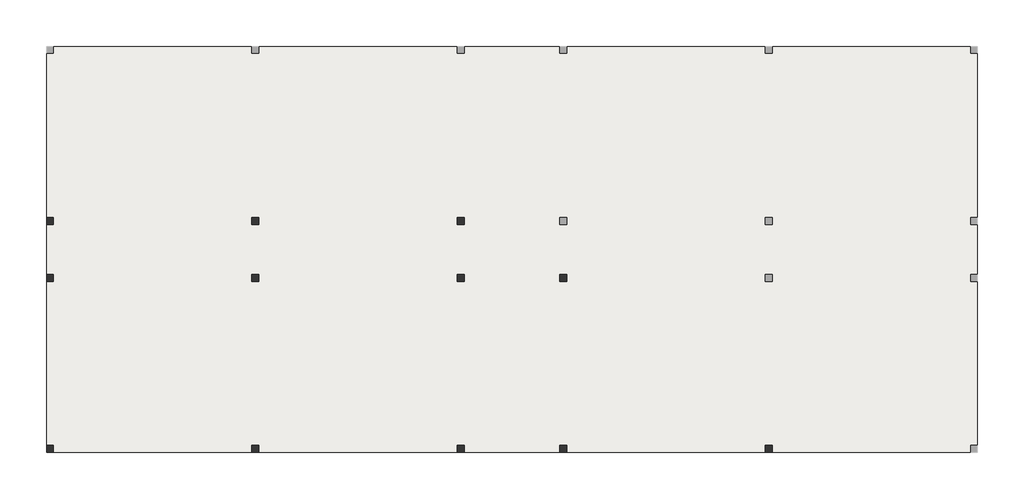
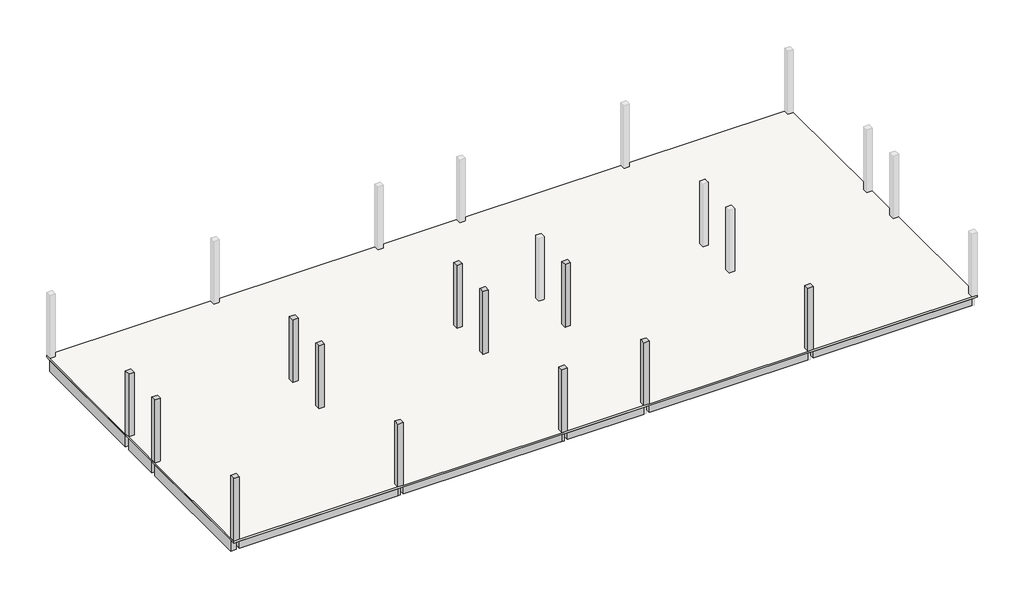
# One storey, part 1 of 2: 12 columns, 8 beams, 1 slab.
"""IFC4 building model written with IfcOpenShell, lengths in millimetres."""

from ifc_helpers import new_model, si_unit, frame, origin, place, context, project, spatial, polyline, outline, extrude, faceted_brep, element, save

model = new_model("IFC4")

# Units and contexts
model_context = context("Model", 3, world=origin())
ifc_project = project(units=[si_unit("LENGTHUNIT", "METRE", prefix="MILLI")], contexts=[model_context])

# Site, building, storey
site = spatial("IfcSite", under=ifc_project)
building = spatial("IfcBuilding", under=site)
storey = spatial("IfcBuildingStorey", under=building, Name="标高 2", Elevation=3000.0)

# Beams
placement = place(None, origin())
element("IfcBeam", 1, ObjectType="混凝土 - 矩形梁 : KL1", at=placement, inside=storey, context=model_context, shape_type="Brep", body=[
    faceted_brep([(-16435.2046881, -2804.7297059, 2400.0), (-16435.2046881, -8564.7297059, 2400.0), (-16435.2046881, -8564.7297059, 2920.0), (-16435.2046881, -2804.7297059, 2920.0), (-16195.2046881, -8564.7297059, 2400.0), (-16195.2046881, -2804.7297059, 2400.0), (-16195.2046881, -2804.7297059, 2920.0), (-16195.2046881, -4584.7297059, 2920.0), (-16195.2046881, -4784.7297059, 2920.0), (-16195.2046881, -6584.7297059, 2920.0), (-16195.2046881, -6784.7297059, 2920.0), (-16195.2046881, -8564.7297059, 2920.0)], [[[0, 1, 2, 3]], [[4, 1, 0, 5]], [[4, 5, 6, 7, 8, 9, 10, 11]], [[1, 4, 11, 2]], [[5, 0, 3, 6]], [[3, 2, 11, 10, 9, 8, 7, 6]]]),
    faceted_brep([(-16195.2046881, 5195.2702941, 2400.0), (-16435.2046881, 5195.2702941, 2400.0), (-16435.2046881, 5195.2702941, 2920.0), (-16195.2046881, 5195.2702941, 2920.0), (-16435.2046881, -564.7297059, 2400.0), (-16195.2046881, -564.7297059, 2400.0), (-16195.2046881, -564.7297059, 2920.0), (-16435.2046881, -564.7297059, 2920.0), (-16195.2046881, 3415.2702941, 2920.0), (-16195.2046881, 3215.2702941, 2920.0), (-16195.2046881, 1415.2702941, 2920.0), (-16195.2046881, 1215.2702941, 2920.0)], [[[0, 1, 2, 3]], [[4, 5, 6, 7]], [[1, 4, 7, 2]], [[1, 0, 5, 4]], [[5, 0, 3, 8, 9, 10, 11, 6]], [[3, 2, 7, 6, 11, 10, 9, 8]]]),
    faceted_brep([(-16435.2046881, -2564.7297059, 2400.0), (-16195.2046881, -2564.7297059, 2400.0), (-16195.2046881, -2564.7297059, 2920.0), (-16435.2046881, -2564.7297059, 2920.0), (-16435.2046881, -804.7297059, 2400.0), (-16435.2046881, -804.7297059, 2920.0), (-16195.2046881, -804.7297059, 2400.0), (-16195.2046881, -804.7297059, 2920.0)], [[[0, 1, 2, 3]], [[4, 0, 3, 5]], [[1, 0, 4, 6]], [[1, 6, 7, 2]], [[6, 4, 5, 7]], [[3, 2, 7, 5]]]),
])
element("IfcBeam", 2, ObjectType="混凝土 - 矩形梁 : KL1", at=placement, inside=storey, context=model_context, shape_type="SweptSolid", body=[
    extrude(outline(polyline([(-2804.7297059, 2400.0), (-8564.7297059, 2400.0), (-8564.7297059, 2920.0), (-6784.7297059, 2920.0), (-6784.7297059, 2600.0), (-6584.7297059, 2600.0), (-6584.7297059, 2920.0), (-4784.7297059, 2920.0), (-4784.7297059, 2600.0), (-4584.7297059, 2600.0), (-4584.7297059, 2920.0), (-2804.7297059, 2920.0), (-2804.7297059, 2400.0)])), frame((-9235.2046881, 0.0, 0.0), z_axis=(1.0, 0.0, 0.0), x_axis=(0.0, 1.0, 0.0)), (0.0, 0.0, 1.0), 240.0),
    extrude(outline(polyline([(5195.2702941, 2400.0), (-564.7297059, 2400.0), (-564.7297059, 2920.0), (1215.2702941, 2920.0), (1215.2702941, 2600.0), (1415.2702941, 2600.0), (1415.2702941, 2920.0), (3215.2702941, 2920.0), (3215.2702941, 2600.0), (3415.2702941, 2600.0), (3415.2702941, 2920.0), (5195.2702941, 2920.0), (5195.2702941, 2400.0)])), frame((-9235.2046881, 0.0, 0.0), z_axis=(1.0, 0.0, 0.0), x_axis=(0.0, 1.0, 0.0)), (0.0, 0.0, 1.0), 240.0),
    extrude(outline(polyline([(-8995.2046881, -2564.7297059), (-9235.2046881, -2564.7297059), (-9235.2046881, -804.7297059), (-8995.2046881, -804.7297059), (-8995.2046881, -2564.7297059)])), frame((0.0, 0.0, 2400.0), z_axis=(0.0, 0.0, 1.0), x_axis=(1.0, 0.0, 0.0)), (0.0, 0.0, 1.0), 520.0),
])
element("IfcBeam", 3, ObjectType="混凝土 - 矩形梁 : KL1", at=placement, inside=storey, context=model_context, shape_type="Brep", body=[
    faceted_brep([(-2035.2046881, -2804.7297059, 2400.0), (-2035.2046881, -8564.7297059, 2400.0), (-2035.2046881, -8564.7297059, 2920.0), (-2035.2046881, -6784.7297059, 2920.0), (-2035.2046881, -6584.7297059, 2920.0), (-2035.2046881, -4784.7297059, 2920.0), (-2035.2046881, -4584.7297059, 2920.0), (-2035.2046881, -2804.7297059, 2920.0), (-1795.2046881, -8564.7297059, 2400.0), (-1795.2046881, -2804.7297059, 2400.0), (-1795.2046881, -2804.7297059, 2920.0), (-1795.2046881, -8564.7297059, 2920.0)], [[[0, 1, 2, 3, 4, 5, 6, 7]], [[8, 1, 0, 9]], [[8, 9, 10, 11]], [[1, 8, 11, 2]], [[9, 0, 7, 10]], [[7, 6, 5, 4, 3, 2, 11, 10]]]),
    faceted_brep([(-1795.2046881, 5195.2702941, 2400.0), (-2035.2046881, 5195.2702941, 2400.0), (-2035.2046881, 5195.2702941, 2920.0), (-1795.2046881, 5195.2702941, 2920.0), (-2035.2046881, -564.7297059, 2400.0), (-1795.2046881, -564.7297059, 2400.0), (-1795.2046881, -564.7297059, 2920.0), (-2035.2046881, -564.7297059, 2920.0), (-2035.2046881, 1215.2702941, 2920.0), (-2035.2046881, 1415.2702941, 2920.0), (-2035.2046881, 3215.2702941, 2920.0), (-2035.2046881, 3415.2702941, 2920.0)], [[[0, 1, 2, 3]], [[4, 5, 6, 7]], [[1, 4, 7, 8, 9, 10, 11, 2]], [[1, 0, 5, 4]], [[5, 0, 3, 6]], [[3, 2, 11, 10, 9, 8, 7, 6]]]),
    faceted_brep([(-2035.2046881, -2564.7297059, 2400.0), (-1795.2046881, -2564.7297059, 2400.0), (-1795.2046881, -2564.7297059, 2920.0), (-2035.2046881, -2564.7297059, 2920.0), (-2035.2046881, -804.7297059, 2400.0), (-2035.2046881, -804.7297059, 2920.0), (-1795.2046881, -804.7297059, 2400.0), (-1795.2046881, -804.7297059, 2920.0)], [[[0, 1, 2, 3]], [[4, 0, 3, 5]], [[1, 0, 4, 6]], [[1, 6, 7, 2]], [[6, 4, 5, 7]], [[3, 2, 7, 5]]]),
])
element("IfcBeam", 4, ObjectType="混凝土 - 矩形梁 : KL2", at=placement, inside=storey, context=model_context, shape_type="SweptSolid", body=[
    extrude(outline(polyline([(-16195.2046881, -8804.7297059), (-16195.2046881, -8604.7297059), (-9235.2046881, -8604.7297059), (-9235.2046881, -8804.7297059), (-16195.2046881, -8804.7297059)])), frame((0.0, 0.0, 2600.0), z_axis=(0.0, 0.0, 1.0), x_axis=(1.0, 0.0, 0.0)), (0.0, 0.0, 1.0), 320.0),
    extrude(outline(polyline([(15964.7953119, -8604.7297059), (15964.7953119, -8804.7297059), (9004.7953119, -8804.7297059), (9004.7953119, -8604.7297059), (15964.7953119, -8604.7297059)])), frame((0.0, 0.0, 2600.0), z_axis=(0.0, 0.0, 1.0), x_axis=(1.0, 0.0, 0.0)), (0.0, 0.0, 1.0), 320.0),
    extrude(outline(polyline([(-8995.2046881, -8804.7297059), (-8995.2046881, -8604.7297059), (-2035.2046881, -8604.7297059), (-2035.2046881, -8804.7297059), (-8995.2046881, -8804.7297059)])), frame((0.0, 0.0, 2600.0), z_axis=(0.0, 0.0, 1.0), x_axis=(1.0, 0.0, 0.0)), (0.0, 0.0, 1.0), 320.0),
    extrude(outline(polyline([(-1795.2046881, -8804.7297059), (-1795.2046881, -8604.7297059), (1564.7953119, -8604.7297059), (1564.7953119, -8804.7297059), (-1795.2046881, -8804.7297059)])), frame((0.0, 0.0, 2600.0), z_axis=(0.0, 0.0, 1.0), x_axis=(1.0, 0.0, 0.0)), (0.0, 0.0, 1.0), 320.0),
    extrude(outline(polyline([(1804.7953119, -8804.7297059), (1804.7953119, -8604.7297059), (8764.7953119, -8604.7297059), (8764.7953119, -8804.7297059), (1804.7953119, -8804.7297059)])), frame((0.0, 0.0, 2600.0), z_axis=(0.0, 0.0, 1.0), x_axis=(1.0, 0.0, 0.0)), (0.0, 0.0, 1.0), 320.0),
])
element("IfcBeam", 5, ObjectType="混凝土 - 矩形梁 : KL2", at=placement, inside=storey, context=model_context, shape_type="SweptSolid", body=[
    extrude(outline(polyline([(-2035.2046881, -584.7297059), (-2035.2046881, -784.7297059), (-8995.2046881, -784.7297059), (-8995.2046881, -584.7297059), (-2035.2046881, -584.7297059)])), frame((0.0, 0.0, 2600.0), z_axis=(0.0, 0.0, 1.0), x_axis=(1.0, 0.0, 0.0)), (0.0, 0.0, 1.0), 320.0),
    extrude(outline(polyline([(-16195.2046881, -784.7297059), (-16195.2046881, -584.7297059), (-9235.2046881, -584.7297059), (-9235.2046881, -784.7297059), (-16195.2046881, -784.7297059)])), frame((0.0, 0.0, 2600.0), z_axis=(0.0, 0.0, 1.0), x_axis=(1.0, 0.0, 0.0)), (0.0, 0.0, 1.0), 320.0),
])
element("IfcBeam", 6, ObjectType="混凝土 - 矩形梁 : KL2", at=placement, inside=storey, context=model_context, shape_type="SweptSolid", body=[
    extrude(outline(polyline([(-2035.2046881, -2584.7297059), (-2035.2046881, -2784.7297059), (-8995.2046881, -2784.7297059), (-8995.2046881, -2584.7297059), (-2035.2046881, -2584.7297059)])), frame((0.0, 0.0, 2600.0), z_axis=(0.0, 0.0, 1.0), x_axis=(1.0, 0.0, 0.0)), (0.0, 0.0, 1.0), 320.0),
    extrude(outline(polyline([(-16195.2046881, -2784.7297059), (-16195.2046881, -2584.7297059), (-9235.2046881, -2584.7297059), (-9235.2046881, -2784.7297059), (-16195.2046881, -2784.7297059)])), frame((0.0, 0.0, 2600.0), z_axis=(0.0, 0.0, 1.0), x_axis=(1.0, 0.0, 0.0)), (0.0, 0.0, 1.0), 320.0),
])
element("IfcBeam", 7, ObjectType="混凝土 - 矩形梁 : KL2", at=placement, inside=storey, context=model_context, shape_type="Brep", body=[
    faceted_brep([(-16195.2046881, -4784.7297059, 2600.0), (-9235.2046881, -4784.7297059, 2600.0), (-8995.2046881, -4784.7297059, 2600.0), (-2035.2046881, -4784.7297059, 2600.0), (-2035.2046881, -4784.7297059, 2920.0), (-8995.2046881, -4784.7297059, 2920.0), (-9235.2046881, -4784.7297059, 2920.0), (-16195.2046881, -4784.7297059, 2920.0), (-16195.2046881, -4584.7297059, 2600.0), (-9235.2046881, -4584.7297059, 2600.0), (-8995.2046881, -4584.7297059, 2600.0), (-2035.2046881, -4584.7297059, 2600.0), (-16195.2046881, -4584.7297059, 2920.0), (-9235.2046881, -4584.7297059, 2920.0), (-8995.2046881, -4584.7297059, 2920.0), (-2035.2046881, -4584.7297059, 2920.0)], [[[0, 1, 2, 3, 4, 5, 6, 7]], [[0, 8, 9, 10, 11, 3, 2, 1]], [[11, 10, 9, 8, 12, 13, 14, 15]], [[8, 0, 7, 12]], [[3, 11, 15, 4]], [[7, 6, 5, 4, 15, 14, 13, 12]]]),
])
element("IfcBeam", 8, ObjectType="混凝土 - 矩形梁 : KL2", at=placement, inside=storey, context=model_context, shape_type="Brep", body=[
    faceted_brep([(-16195.2046881, -6784.7297059, 2600.0), (-9235.2046881, -6784.7297059, 2600.0), (-8995.2046881, -6784.7297059, 2600.0), (-2035.2046881, -6784.7297059, 2600.0), (-2035.2046881, -6784.7297059, 2920.0), (-8995.2046881, -6784.7297059, 2920.0), (-9235.2046881, -6784.7297059, 2920.0), (-16195.2046881, -6784.7297059, 2920.0), (-16195.2046881, -6584.7297059, 2600.0), (-9235.2046881, -6584.7297059, 2600.0), (-8995.2046881, -6584.7297059, 2600.0), (-2035.2046881, -6584.7297059, 2600.0), (-16195.2046881, -6584.7297059, 2920.0), (-9235.2046881, -6584.7297059, 2920.0), (-8995.2046881, -6584.7297059, 2920.0), (-2035.2046881, -6584.7297059, 2920.0)], [[[0, 1, 2, 3, 4, 5, 6, 7]], [[0, 8, 9, 10, 11, 3, 2, 1]], [[11, 10, 9, 8, 12, 13, 14, 15]], [[8, 0, 7, 12]], [[3, 11, 15, 4]], [[7, 6, 5, 4, 15, 14, 13, 12]]]),
])

# Columns
element("IfcColumn", 9, ObjectType="混凝土 - 矩形 - 柱 : KZ", at=placement, inside=storey, context=model_context, shape_type="Brep", body=[
    faceted_brep([(-16195.2046881, -8564.7297059, 3000.0), (-16195.2046881, -8804.7297059, 3000.0), (-16435.2046881, -8804.7297059, 3000.0), (-16435.2046881, -8564.7297059, 3000.0), (-16195.2046881, -8564.7297059, 5400.0), (-16195.2046881, -8564.7297059, 5920.0), (-16195.2046881, -8604.7297059, 5920.0), (-16195.2046881, -8804.7297059, 5920.0), (-16195.2046881, -8804.7297059, 5600.0), (-16435.2046881, -8804.7297059, 5920.0), (-16435.2046881, -8564.7297059, 5920.0), (-16435.2046881, -8564.7297059, 5400.0)], [[[0, 1, 2, 3]], [[1, 0, 4, 5, 6, 7, 8]], [[2, 1, 8, 7, 9]], [[3, 2, 9, 10, 11]], [[0, 3, 11, 10, 5, 4]], [[7, 6, 5, 10, 9]]]),
])
element("IfcColumn", 10, ObjectType="混凝土 - 矩形 - 柱 : KZ", at=placement, inside=storey, context=model_context, shape_type="Brep", body=[
    faceted_brep([(-16195.2046881, -2564.7297059, 3000.0), (-16195.2046881, -2804.7297059, 3000.0), (-16435.2046881, -2804.7297059, 3000.0), (-16435.2046881, -2564.7297059, 3000.0), (-16195.2046881, -2564.7297059, 5400.0), (-16195.2046881, -2564.7297059, 5920.0), (-16195.2046881, -2584.7297059, 5920.0), (-16195.2046881, -2784.7297059, 5920.0), (-16195.2046881, -2804.7297059, 5920.0), (-16195.2046881, -2804.7297059, 5400.0), (-16435.2046881, -2804.7297059, 5920.0), (-16435.2046881, -2804.7297059, 5400.0), (-16435.2046881, -2564.7297059, 5920.0), (-16435.2046881, -2564.7297059, 5400.0)], [[[0, 1, 2, 3]], [[1, 0, 4, 5, 6, 7, 8, 9]], [[2, 1, 9, 8, 10, 11]], [[3, 2, 11, 10, 12, 13]], [[0, 3, 13, 12, 5, 4]], [[8, 7, 6, 5, 12, 10]]]),
])
element("IfcColumn", 11, ObjectType="混凝土 - 矩形 - 柱 : KZ", at=placement, inside=storey, context=model_context, shape_type="Brep", body=[
    faceted_brep([(-16195.2046881, -564.7297059, 3000.0), (-16195.2046881, -804.7297059, 3000.0), (-16435.2046881, -804.7297059, 3000.0), (-16435.2046881, -564.7297059, 3000.0), (-16195.2046881, -564.7297059, 5400.0), (-16195.2046881, -564.7297059, 5920.0), (-16195.2046881, -584.7297059, 5920.0), (-16195.2046881, -784.7297059, 5920.0), (-16195.2046881, -804.7297059, 5920.0), (-16195.2046881, -804.7297059, 5400.0), (-16435.2046881, -804.7297059, 5920.0), (-16435.2046881, -804.7297059, 5400.0), (-16435.2046881, -564.7297059, 5920.0), (-16435.2046881, -564.7297059, 5400.0)], [[[0, 1, 2, 3]], [[1, 0, 4, 5, 6, 7, 8, 9]], [[2, 1, 9, 8, 10, 11]], [[3, 2, 11, 10, 12, 13]], [[0, 3, 13, 12, 5, 4]], [[8, 7, 6, 5, 12, 10]]]),
])
element("IfcColumn", 12, ObjectType="混凝土 - 矩形 - 柱 : KZ", at=placement, inside=storey, context=model_context, shape_type="Brep", body=[
    faceted_brep([(-8995.2046881, -8564.7297059, 3000.0), (-8995.2046881, -8804.7297059, 3000.0), (-9235.2046881, -8804.7297059, 3000.0), (-9235.2046881, -8564.7297059, 3000.0), (-8995.2046881, -8564.7297059, 5400.0), (-8995.2046881, -8564.7297059, 5920.0), (-8995.2046881, -8604.7297059, 5920.0), (-8995.2046881, -8804.7297059, 5920.0), (-8995.2046881, -8804.7297059, 5600.0), (-9235.2046881, -8804.7297059, 5920.0), (-9235.2046881, -8804.7297059, 5600.0), (-9235.2046881, -8604.7297059, 5920.0), (-9235.2046881, -8564.7297059, 5920.0), (-9235.2046881, -8564.7297059, 5400.0)], [[[0, 1, 2, 3]], [[1, 0, 4, 5, 6, 7, 8]], [[2, 1, 8, 7, 9, 10]], [[3, 2, 10, 9, 11, 12, 13]], [[0, 3, 13, 12, 5, 4]], [[7, 6, 5, 12, 11, 9]]]),
])
element("IfcColumn", 13, ObjectType="混凝土 - 矩形 - 柱 : KZ", at=placement, inside=storey, context=model_context, shape_type="Brep", body=[
    faceted_brep([(-8995.2046881, -2564.7297059, 3000.0), (-8995.2046881, -2804.7297059, 3000.0), (-9235.2046881, -2804.7297059, 3000.0), (-9235.2046881, -2564.7297059, 3000.0), (-8995.2046881, -2564.7297059, 5400.0), (-8995.2046881, -2564.7297059, 5920.0), (-8995.2046881, -2584.7297059, 5920.0), (-8995.2046881, -2784.7297059, 5920.0), (-8995.2046881, -2804.7297059, 5920.0), (-8995.2046881, -2804.7297059, 5400.0), (-9235.2046881, -2804.7297059, 5920.0), (-9235.2046881, -2804.7297059, 5400.0), (-9235.2046881, -2784.7297059, 5920.0), (-9235.2046881, -2584.7297059, 5920.0), (-9235.2046881, -2564.7297059, 5920.0), (-9235.2046881, -2564.7297059, 5400.0)], [[[0, 1, 2, 3]], [[1, 0, 4, 5, 6, 7, 8, 9]], [[2, 1, 9, 8, 10, 11]], [[3, 2, 11, 10, 12, 13, 14, 15]], [[0, 3, 15, 14, 5, 4]], [[8, 7, 6, 5, 14, 13, 12, 10]]]),
])
element("IfcColumn", 14, ObjectType="混凝土 - 矩形 - 柱 : KZ", at=placement, inside=storey, context=model_context, shape_type="Brep", body=[
    faceted_brep([(-8995.2046881, -564.7297059, 3000.0), (-8995.2046881, -804.7297059, 3000.0), (-9235.2046881, -804.7297059, 3000.0), (-9235.2046881, -564.7297059, 3000.0), (-8995.2046881, -564.7297059, 5400.0), (-8995.2046881, -564.7297059, 5920.0), (-8995.2046881, -584.7297059, 5920.0), (-8995.2046881, -784.7297059, 5920.0), (-8995.2046881, -804.7297059, 5920.0), (-8995.2046881, -804.7297059, 5400.0), (-9235.2046881, -804.7297059, 5920.0), (-9235.2046881, -804.7297059, 5400.0), (-9235.2046881, -784.7297059, 5920.0), (-9235.2046881, -584.7297059, 5920.0), (-9235.2046881, -564.7297059, 5920.0), (-9235.2046881, -564.7297059, 5400.0)], [[[0, 1, 2, 3]], [[1, 0, 4, 5, 6, 7, 8, 9]], [[2, 1, 9, 8, 10, 11]], [[3, 2, 11, 10, 12, 13, 14, 15]], [[0, 3, 15, 14, 5, 4]], [[8, 7, 6, 5, 14, 13, 12, 10]]]),
])
element("IfcColumn", 15, ObjectType="混凝土 - 矩形 - 柱 : KZ", at=placement, inside=storey, context=model_context, shape_type="Brep", body=[
    faceted_brep([(-1795.2046881, -8564.7297059, 3000.0), (-1795.2046881, -8804.7297059, 3000.0), (-2035.2046881, -8804.7297059, 3000.0), (-2035.2046881, -8564.7297059, 3000.0), (-1795.2046881, -8564.7297059, 5400.0), (-1795.2046881, -8564.7297059, 5920.0), (-1795.2046881, -8604.7297059, 5920.0), (-1795.2046881, -8804.7297059, 5920.0), (-1795.2046881, -8804.7297059, 5600.0), (-2035.2046881, -8804.7297059, 5920.0), (-2035.2046881, -8804.7297059, 5600.0), (-2035.2046881, -8604.7297059, 5920.0), (-2035.2046881, -8564.7297059, 5920.0), (-2035.2046881, -8564.7297059, 5400.0)], [[[0, 1, 2, 3]], [[1, 0, 4, 5, 6, 7, 8]], [[2, 1, 8, 7, 9, 10]], [[3, 2, 10, 9, 11, 12, 13]], [[0, 3, 13, 12, 5, 4]], [[7, 6, 5, 12, 11, 9]]]),
])
element("IfcColumn", 16, ObjectType="混凝土 - 矩形 - 柱 : KZ", at=placement, inside=storey, context=model_context, shape_type="Brep", body=[
    faceted_brep([(-1795.2046881, -2564.7297059, 3000.0), (-1795.2046881, -2804.7297059, 3000.0), (-2035.2046881, -2804.7297059, 3000.0), (-2035.2046881, -2564.7297059, 3000.0), (-1795.2046881, -2564.7297059, 5400.0), (-1795.2046881, -2564.7297059, 5920.0), (-1795.2046881, -2804.7297059, 5920.0), (-1795.2046881, -2804.7297059, 5400.0), (-2035.2046881, -2804.7297059, 5920.0), (-2035.2046881, -2804.7297059, 5400.0), (-2035.2046881, -2784.7297059, 5920.0), (-2035.2046881, -2584.7297059, 5920.0), (-2035.2046881, -2564.7297059, 5920.0), (-2035.2046881, -2564.7297059, 5400.0)], [[[0, 1, 2, 3]], [[1, 0, 4, 5, 6, 7]], [[2, 1, 7, 6, 8, 9]], [[3, 2, 9, 8, 10, 11, 12, 13]], [[0, 3, 13, 12, 5, 4]], [[6, 5, 12, 11, 10, 8]]]),
])
element("IfcColumn", 17, ObjectType="混凝土 - 矩形 - 柱 : KZ", at=placement, inside=storey, context=model_context, shape_type="Brep", body=[
    faceted_brep([(-1795.2046881, -564.7297059, 3000.0), (-1795.2046881, -804.7297059, 3000.0), (-2035.2046881, -804.7297059, 3000.0), (-2035.2046881, -564.7297059, 3000.0), (-1795.2046881, -564.7297059, 5400.0), (-1795.2046881, -564.7297059, 5920.0), (-1795.2046881, -584.7297059, 5920.0), (-1795.2046881, -804.7297059, 5920.0), (-1795.2046881, -804.7297059, 5400.0), (-2035.2046881, -804.7297059, 5920.0), (-2035.2046881, -804.7297059, 5400.0), (-2035.2046881, -784.7297059, 5920.0), (-2035.2046881, -584.7297059, 5920.0), (-2035.2046881, -564.7297059, 5920.0), (-2035.2046881, -564.7297059, 5400.0)], [[[0, 1, 2, 3]], [[1, 0, 4, 5, 6, 7, 8]], [[2, 1, 8, 7, 9, 10]], [[3, 2, 10, 9, 11, 12, 13, 14]], [[0, 3, 14, 13, 5, 4]], [[7, 6, 5, 13, 12, 11, 9]]]),
])
element("IfcColumn", 18, ObjectType="混凝土 - 矩形 - 柱 : KZ", at=placement, inside=storey, context=model_context, shape_type="Brep", body=[
    faceted_brep([(1804.7953119, -8564.7297059, 3000.0), (1804.7953119, -8804.7297059, 3000.0), (1564.7953119, -8804.7297059, 3000.0), (1564.7953119, -8564.7297059, 3000.0), (1804.7953119, -8564.7297059, 5400.0), (1804.7953119, -8564.7297059, 5920.0), (1804.7953119, -8604.7297059, 5920.0), (1804.7953119, -8804.7297059, 5920.0), (1804.7953119, -8804.7297059, 5600.0), (1564.7953119, -8804.7297059, 5920.0), (1564.7953119, -8804.7297059, 5600.0), (1564.7953119, -8604.7297059, 5920.0), (1564.7953119, -8564.7297059, 5920.0), (1564.7953119, -8564.7297059, 5400.0)], [[[0, 1, 2, 3]], [[1, 0, 4, 5, 6, 7, 8]], [[2, 1, 8, 7, 9, 10]], [[3, 2, 10, 9, 11, 12, 13]], [[0, 3, 13, 12, 5, 4]], [[7, 6, 5, 12, 11, 9]]]),
])
element("IfcColumn", 19, ObjectType="混凝土 - 矩形 - 柱 : KZ", at=placement, inside=storey, context=model_context, shape_type="Brep", body=[
    faceted_brep([(1804.7953119, -2564.7297059, 3000.0), (1804.7953119, -2804.7297059, 3000.0), (1564.7953119, -2804.7297059, 3000.0), (1564.7953119, -2564.7297059, 3000.0), (1804.7953119, -2564.7297059, 5400.0), (1804.7953119, -2564.7297059, 5920.0), (1804.7953119, -2584.7297059, 5920.0), (1804.7953119, -2784.7297059, 5920.0), (1804.7953119, -2804.7297059, 5920.0), (1804.7953119, -2804.7297059, 5400.0), (1564.7953119, -2804.7297059, 5920.0), (1564.7953119, -2804.7297059, 5400.0), (1564.7953119, -2564.7297059, 5920.0), (1564.7953119, -2564.7297059, 5400.0)], [[[0, 1, 2, 3]], [[1, 0, 4, 5, 6, 7, 8, 9]], [[2, 1, 9, 8, 10, 11]], [[3, 2, 11, 10, 12, 13]], [[0, 3, 13, 12, 5, 4]], [[8, 7, 6, 5, 12, 10]]]),
])
element("IfcColumn", 20, ObjectType="混凝土 - 矩形 - 柱 : KZ", at=placement, inside=storey, context=model_context, shape_type="Brep", body=[
    faceted_brep([(9004.7953119, -8564.7297059, 3000.0), (9004.7953119, -8804.7297059, 3000.0), (8764.7953119, -8804.7297059, 3000.0), (8764.7953119, -8564.7297059, 3000.0), (9004.7953119, -8564.7297059, 5400.0), (9004.7953119, -8564.7297059, 5920.0), (9004.7953119, -8604.7297059, 5920.0), (9004.7953119, -8804.7297059, 5920.0), (9004.7953119, -8804.7297059, 5600.0), (8764.7953119, -8804.7297059, 5920.0), (8764.7953119, -8804.7297059, 5600.0), (8764.7953119, -8604.7297059, 5920.0), (8764.7953119, -8564.7297059, 5920.0), (8764.7953119, -8564.7297059, 5400.0)], [[[0, 1, 2, 3]], [[1, 0, 4, 5, 6, 7, 8]], [[2, 1, 8, 7, 9, 10]], [[3, 2, 10, 9, 11, 12, 13]], [[0, 3, 13, 12, 5, 4]], [[7, 6, 5, 12, 11, 9]]]),
])

# Slab
element("IfcSlab", 21, ObjectType="常规 - 80mm", at=placement, inside=storey, context=model_context, shape_type="Brep", body=[
    faceted_brep([(16204.7953119, 5435.2702941, 2920.0), (16204.7953119, 5195.2702941, 2920.0), (16204.7953119, -564.7297059, 2920.0), (16204.7953119, -804.7297059, 2920.0), (16204.7953119, -2564.7297059, 2920.0), (16204.7953119, -2804.7297059, 2920.0), (16204.7953119, -8564.7297059, 2920.0), (16204.7953119, -8804.7297059, 2920.0), (15964.7953119, -8804.7297059, 2920.0), (9004.7953119, -8804.7297059, 2920.0), (8764.7953119, -8804.7297059, 2920.0), (1804.7953119, -8804.7297059, 2920.0), (1564.7953119, -8804.7297059, 2920.0), (-1795.2046881, -8804.7297059, 2920.0), (-2035.2046881, -8804.7297059, 2920.0), (-8995.2046881, -8804.7297059, 2920.0), (-9235.2046881, -8804.7297059, 2920.0), (-16195.2046881, -8804.7297059, 2920.0), (-16435.2046881, -8804.7297059, 2920.0), (-16435.2046881, -8564.7297059, 2920.0), (-16435.2046881, -2804.7297059, 2920.0), (-16435.2046881, -2564.7297059, 2920.0), (-16435.2046881, -804.7297059, 2920.0), (-16435.2046881, -564.7297059, 2920.0), (-16435.2046881, 5195.2702941, 2920.0), (-16435.2046881, 5435.2702941, 2920.0), (-16195.2046881, 5435.2702941, 2920.0), (-9235.2046881, 5435.2702941, 2920.0), (-8995.2046881, 5435.2702941, 2920.0), (-2035.2046881, 5435.2702941, 2920.0), (-1795.2046881, 5435.2702941, 2920.0), (1564.7953119, 5435.2702941, 2920.0), (1804.7953119, 5435.2702941, 2920.0), (8764.7953119, 5435.2702941, 2920.0), (9004.7953119, 5435.2702941, 2920.0), (15964.7953119, 5435.2702941, 2920.0), (16204.7953119, 5435.2702941, 3000.0), (15964.7953119, 5435.2702941, 3000.0), (9004.7953119, 5435.2702941, 3000.0), (8764.7953119, 5435.2702941, 3000.0), (1804.7953119, 5435.2702941, 3000.0), (1564.7953119, 5435.2702941, 3000.0), (-1795.2046881, 5435.2702941, 3000.0), (-2035.2046881, 5435.2702941, 3000.0), (-8995.2046881, 5435.2702941, 3000.0), (-9235.2046881, 5435.2702941, 3000.0), (-16195.2046881, 5435.2702941, 3000.0), (-16435.2046881, 5435.2702941, 3000.0), (-16435.2046881, 5195.2702941, 3000.0), (-16435.2046881, -564.7297059, 3000.0), (-16435.2046881, -804.7297059, 3000.0), (-16435.2046881, -2564.7297059, 3000.0), (-16435.2046881, -2804.7297059, 3000.0), (-16435.2046881, -8564.7297059, 3000.0), (-16435.2046881, -8804.7297059, 3000.0), (-16195.2046881, -8804.7297059, 3000.0), (-9235.2046881, -8804.7297059, 3000.0), (-8995.2046881, -8804.7297059, 3000.0), (-2035.2046881, -8804.7297059, 3000.0), (-1795.2046881, -8804.7297059, 3000.0), (1564.7953119, -8804.7297059, 3000.0), (1804.7953119, -8804.7297059, 3000.0), (8764.7953119, -8804.7297059, 3000.0), (9004.7953119, -8804.7297059, 3000.0), (15964.7953119, -8804.7297059, 3000.0), (16204.7953119, -8804.7297059, 3000.0), (16204.7953119, -8564.7297059, 3000.0), (16204.7953119, -2804.7297059, 3000.0), (16204.7953119, -2564.7297059, 3000.0), (16204.7953119, -804.7297059, 3000.0), (16204.7953119, -564.7297059, 3000.0), (16204.7953119, 5195.2702941, 3000.0)], [[[0, 1, 2, 3, 4, 5, 6, 7, 8, 9, 10, 11, 12, 13, 14, 15, 16, 17, 18, 19, 20, 21, 22, 23, 24, 25, 26, 27, 28, 29, 30, 31, 32, 33, 34, 35]], [[36, 37, 38, 39, 40, 41, 42, 43, 44, 45, 46, 47, 48, 49, 50, 51, 52, 53, 54, 55, 56, 57, 58, 59, 60, 61, 62, 63, 64, 65, 66, 67, 68, 69, 70, 71]], [[7, 6, 5, 4, 3, 2, 1, 0, 36, 71, 70, 69, 68, 67, 66, 65]], [[18, 17, 16, 15, 14, 13, 12, 11, 10, 9, 8, 7, 65, 64, 63, 62, 61, 60, 59, 58, 57, 56, 55, 54]], [[25, 24, 23, 22, 21, 20, 19, 18, 54, 53, 52, 51, 50, 49, 48, 47]], [[0, 35, 34, 33, 32, 31, 30, 29, 28, 27, 26, 25, 47, 46, 45, 44, 43, 42, 41, 40, 39, 38, 37, 36]]]),
])

save(model, "model.ifc")
